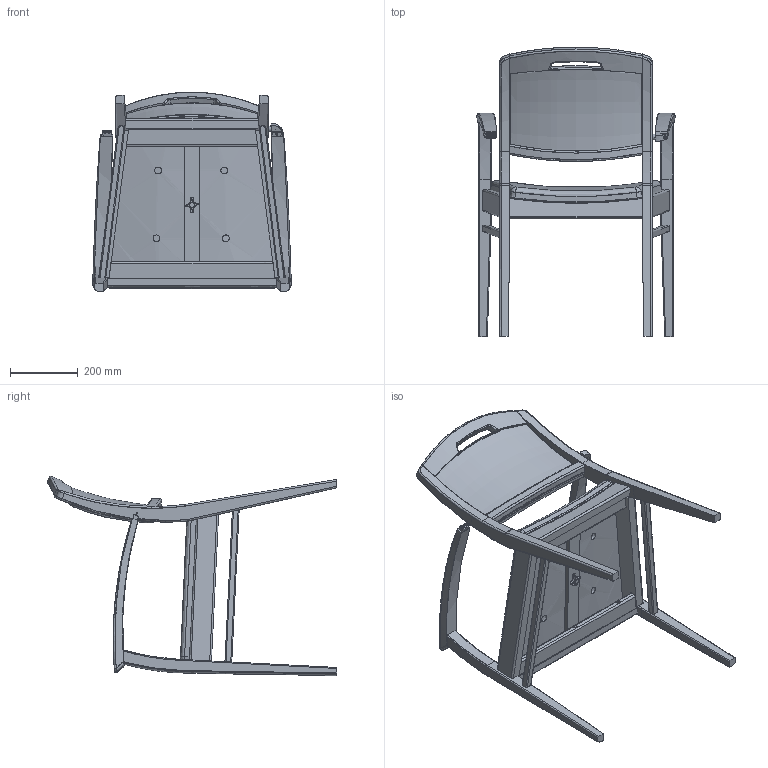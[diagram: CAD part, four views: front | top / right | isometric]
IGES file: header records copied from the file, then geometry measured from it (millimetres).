
Start section: SolidWorks IGES file using analytic representation for surfaces
Global section: file name: C:\Users\emanuel\Desktop\Siana_3D\Regina SG818C.IGS; native system: SolidWorks 2015; preprocessor: SolidWorks 2015; author: Emanuel; date: 151113.151452; units: millimetre
Bounding box: 585.75 x 853.07 x 588.96 mm (x, y, z)
Surface area: 2549058.3 mm2 (no closed solid volume)
Topology: 0 solids, 0 shells, 1016 faces, 14039 edges, 14014 vertices
Faces by surface type: bspline 566, revolution 450
